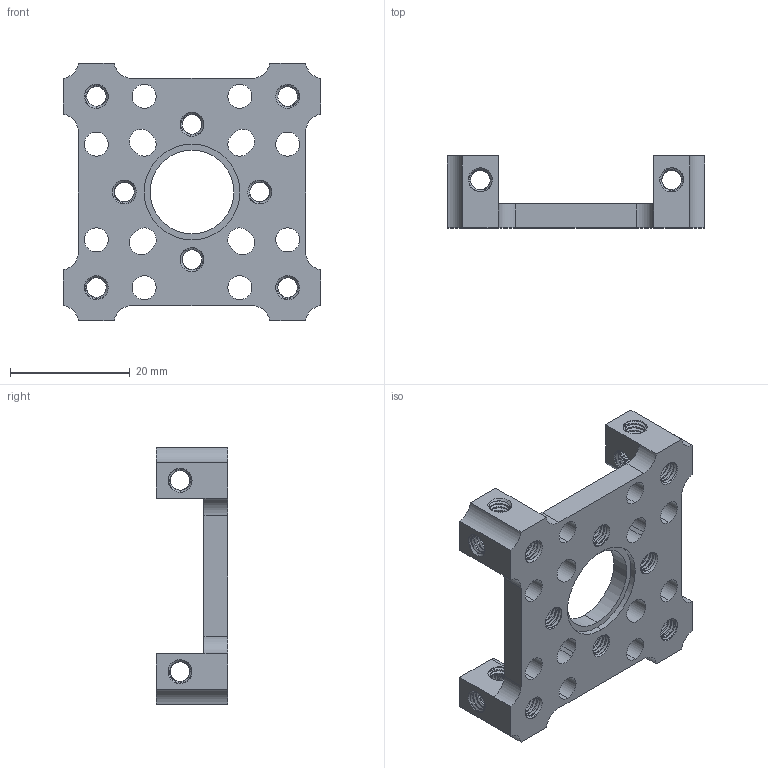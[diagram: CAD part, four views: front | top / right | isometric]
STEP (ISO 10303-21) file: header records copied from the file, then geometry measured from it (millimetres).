
FILE_DESCRIPTION (( 'STEP AP203' ), '1' );
FILE_NAME ('1201-0043-0002 rev2.STEP', '2019-04-16T19:30:00', ( '' ), ( '' ), 'SwSTEP 2.0', 'SolidWorks 2016', '' );
FILE_SCHEMA (( 'CONFIG_CONTROL_DESIGN' ));
Products named in the file (1): 1201-0043-0002 rev2
Bounding box: 43 x 12 x 43 mm (x, y, z)
Volume: 6102 mm3; surface area: 6357.8 mm2
Topology: 1 solids, 1 shells, 1318 faces, 3939 edges, 2592 vertices
Faces by surface type: cylinder 845, bspline 334, cone 104, plane 35
Entity records: 397045 total; most frequent: CARTESIAN_POINT 369987, ORIENTED_EDGE 7878, EDGE_CURVE 3939, DIRECTION 3225, VERTEX_POINT 2592, EDGE_LOOP 1369, B_SPLINE_CURVE_WITH_KNOTS 1342, ADVANCED_FACE 1318
